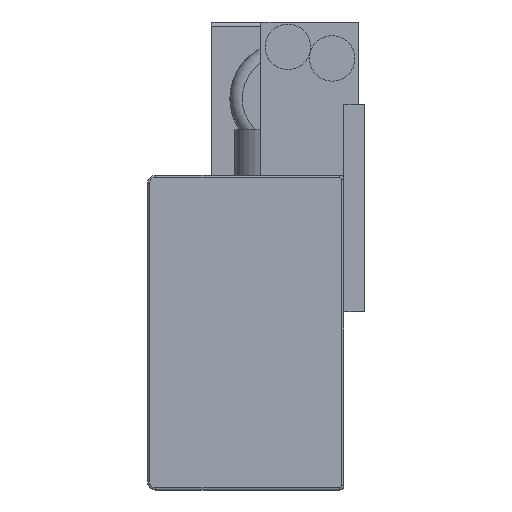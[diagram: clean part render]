
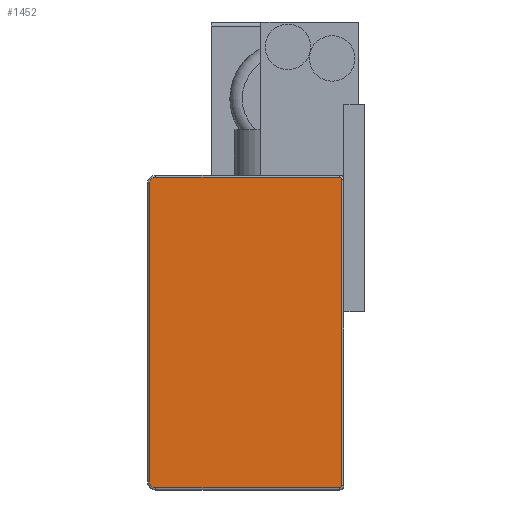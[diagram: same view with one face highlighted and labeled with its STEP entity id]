
A CAD part, left-side view. The second image highlights one B-rep face of the part: STEP entity #1452.
In plain terms, the highlighted planar face has unit normal (-1, 0, 0).
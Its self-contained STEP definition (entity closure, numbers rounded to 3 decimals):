
#46=PLANE('',#1597);
#98=CIRCLE('',#1555,0.5);
#104=CIRCLE('',#1564,0.5);
#123=CIRCLE('',#1598,1.5);
#124=CIRCLE('',#1599,1.5);
#306=ORIENTED_EDGE('',*,*,#619,.T.);
#307=ORIENTED_EDGE('',*,*,#677,.T.);
#308=ORIENTED_EDGE('',*,*,#678,.T.);
#309=ORIENTED_EDGE('',*,*,#679,.T.);
#310=ORIENTED_EDGE('',*,*,#623,.T.);
#311=ORIENTED_EDGE('',*,*,#632,.T.);
#312=ORIENTED_EDGE('',*,*,#627,.T.);
#313=ORIENTED_EDGE('',*,*,#621,.T.);
#619=EDGE_CURVE('',#812,#811,#938,.T.);
#621=EDGE_CURVE('',#813,#812,#98,.T.);
#623=EDGE_CURVE('',#814,#815,#939,.T.);
#627=EDGE_CURVE('',#818,#813,#941,.T.);
#632=EDGE_CURVE('',#815,#818,#104,.T.);
#677=EDGE_CURVE('',#811,#851,#123,.T.);
#678=EDGE_CURVE('',#851,#852,#969,.F.);
#679=EDGE_CURVE('',#852,#814,#124,.T.);
#811=VERTEX_POINT('',#2251);
#812=VERTEX_POINT('',#2253);
#813=VERTEX_POINT('',#2257);
#814=VERTEX_POINT('',#2261);
#815=VERTEX_POINT('',#2262);
#818=VERTEX_POINT('',#2270);
#851=VERTEX_POINT('',#2368);
#852=VERTEX_POINT('',#2370);
#938=LINE('',#2252,#1076);
#939=LINE('',#2260,#1077);
#941=LINE('',#2269,#1079);
#969=LINE('',#2369,#1107);
#1076=VECTOR('',#1794,1000.);
#1077=VECTOR('',#1805,1000.);
#1079=VECTOR('',#1813,1000.);
#1107=VECTOR('',#1917,1000.);
#1217=EDGE_LOOP('',(#306,#307,#308,#309,#310,#311,#312,#313));
#1323=FACE_BOUND('',#1217,.T.);
#1452=ADVANCED_FACE('',(#1323),#46,.T.);
#1555=AXIS2_PLACEMENT_3D('',#2256,#1799,#1800);
#1564=AXIS2_PLACEMENT_3D('',#2277,#1822,#1823);
#1597=AXIS2_PLACEMENT_3D('',#2366,#1913,#1914);
#1598=AXIS2_PLACEMENT_3D('',#2367,#1915,#1916);
#1599=AXIS2_PLACEMENT_3D('',#2371,#1918,#1919);
#1794=DIRECTION('',(0.,1.,0.));
#1799=DIRECTION('',(-1.,0.,0.));
#1800=DIRECTION('',(0.,0.,1.));
#1805=DIRECTION('',(0.,-1.,0.));
#1813=DIRECTION('',(0.,0.,1.));
#1822=DIRECTION('',(-1.,0.,0.));
#1823=DIRECTION('',(0.,0.,1.));
#1913=DIRECTION('',(-1.,0.,0.));
#1914=DIRECTION('',(0.,0.,1.));
#1915=DIRECTION('',(-1.,0.,0.));
#1916=DIRECTION('',(0.,0.,1.));
#1917=DIRECTION('',(0.,0.,1.));
#1918=DIRECTION('',(-1.,0.,0.));
#1919=DIRECTION('',(0.,0.,1.));
#2251=CARTESIAN_POINT('',(-457.2,45.4,37.5));
#2252=CARTESIAN_POINT('',(-457.2,34.,37.5));
#2253=CARTESIAN_POINT('',(-457.2,1.,37.5));
#2256=CARTESIAN_POINT('',(-457.2,1.,37.));
#2257=CARTESIAN_POINT('',(-457.2,0.5,37.));
#2260=CARTESIAN_POINT('',(-457.2,34.,-37.5));
#2261=CARTESIAN_POINT('',(-457.2,45.4,-37.5));
#2262=CARTESIAN_POINT('',(-457.2,1.,-37.5));
#2269=CARTESIAN_POINT('',(-457.2,0.5,38.));
#2270=CARTESIAN_POINT('',(-457.2,0.5,-37.));
#2277=CARTESIAN_POINT('',(-457.2,1.,-37.));
#2366=CARTESIAN_POINT('',(-457.2,34.,38.));
#2367=CARTESIAN_POINT('',(-457.2,45.4,36.));
#2368=CARTESIAN_POINT('',(-457.2,46.9,36.));
#2369=CARTESIAN_POINT('',(-457.2,46.9,38.));
#2370=CARTESIAN_POINT('',(-457.2,46.9,-36.));
#2371=CARTESIAN_POINT('',(-457.2,45.4,-36.));
